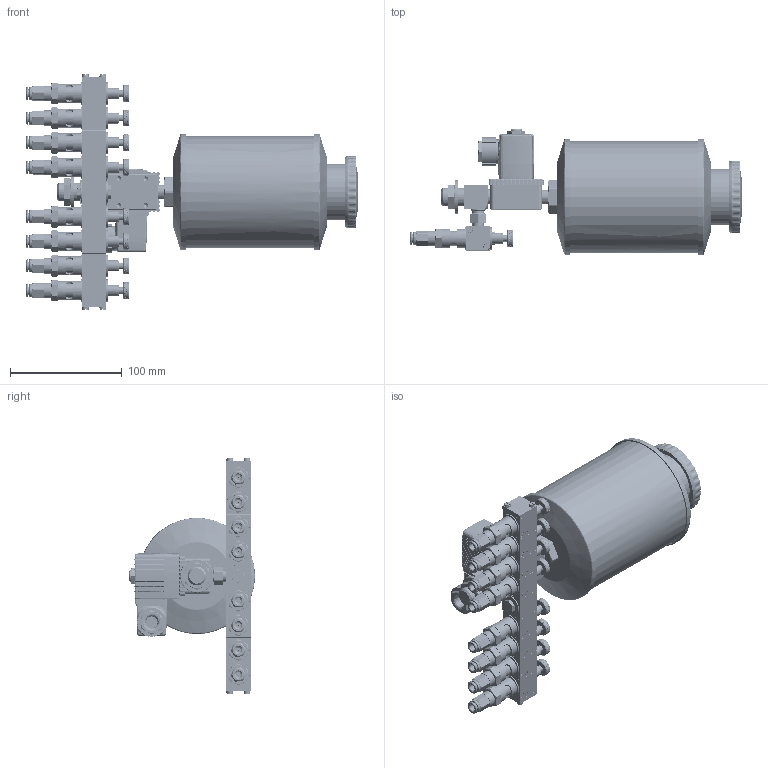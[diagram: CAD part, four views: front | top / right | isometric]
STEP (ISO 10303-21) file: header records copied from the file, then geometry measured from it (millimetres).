
FILE_DESCRIPTION (( 'STEP AP214' ), '1' );
FILE_NAME ('TRO_03_01_08_XXX.STEP', '2025-11-24T12:48:42', ( '' ), ( '' ), 'SwSTEP 2.0', 'SolidWorks 2022', '' );
FILE_SCHEMA (( 'AUTOMOTIVE_DESIGN' ));
Length unit declared in the file: millimetre
Products named in the file (20): TRO_2er; TRO_2er_mittel_Mit_Verschr.SLDPRT; TRO_Endplatte; DR6_NEU; 9911 0701 0601_6_1_8_HD; TRO_2er_mittel; TRO_Magnetventil_Stecker; TRO_03_01_08_XXX; OR 7.2X1.9_1; TRO_Magnetventil_ohne; RIVOLUZIONE_0; TRO_Stutzen.SLDPRT; TRO_Behaelter_01; R200107-N1; DR6-C_HDX_25.07.16; OR 7.66X1.78; TRO_1er_Mit_Verschr.SLDPRT; TRO_Magnetventil_aktuell
Assembly tree (23 placements, depth 4):
  DR6_NEU
  TRO_2er_mittel
  TRO_03_01_08_XXX
    TRO_Behaelter_01
    TRO_2er_mittel_Mit_Verschr.SLDPRT
      TRO_Stutzen.SLDPRT
        TRO_2er_mittel
      TRO_2er
      9911 0701 0601_6_1_8_HD  x2
        RIVOLUZIONE_0
        OR 7.66X1.78
        DR6-C_HDX_25.07.16
    TRO_1er_Mit_Verschr.SLDPRT  x6
      TRO_2er
      9911 0701 0601_6_1_8_HD
        RIVOLUZIONE_0
        OR 7.66X1.78
        DR6-C_HDX_25.07.16
    TRO_Magnetventil_aktuell
      TRO_Magnetventil_ohne
      TRO_Magnetventil_Stecker
    TRO_Endplatte  x2
  OR 7.2X1.9_1
  R200107-N1
Bounding box: 296.51 x 112.7 x 210.8 mm (x, y, z)
Volume: 460248.5 mm3; surface area: 286898.4 mm2
Topology: 48 solids, 48 shells, 9214 faces, 23757 edges, 14817 vertices
Faces by surface type: bspline 3651, plane 3140, cylinder 1626, cone 794, torus 3
Full cylindrical faces by diameter (mm): 1.5 x8, 2 x8, 3.5 x12, 3.8 x8, 4.2 x8, 4.5 x8, 5.5 x4, 5.9 x16, 6 x2, 6.2 x8, 6.25 x1, 6.3 x8, 6.75 x1, 7 x9, 7.2 x8, 7.4 x1, 8 x2, 8.3 x8, 8.4 x1, 8.5 x1, 8.6 x11, 8.8 x1, 9 x9, 9.2 x1, 9.5 x8, 9.728 x8, 9.8 x1, 9.9 x8, 10 x20, 10.1 x1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
Entity records: 315546 total; most frequent: CARTESIAN_POINT 172989, ORIENTED_EDGE 32244, DIRECTION 18614, EDGE_CURVE 16122, VERTEX_POINT 10235, B_SPLINE_CURVE_WITH_KNOTS 7572, AXIS2_PLACEMENT_3D 6995, EDGE_LOOP 6979
